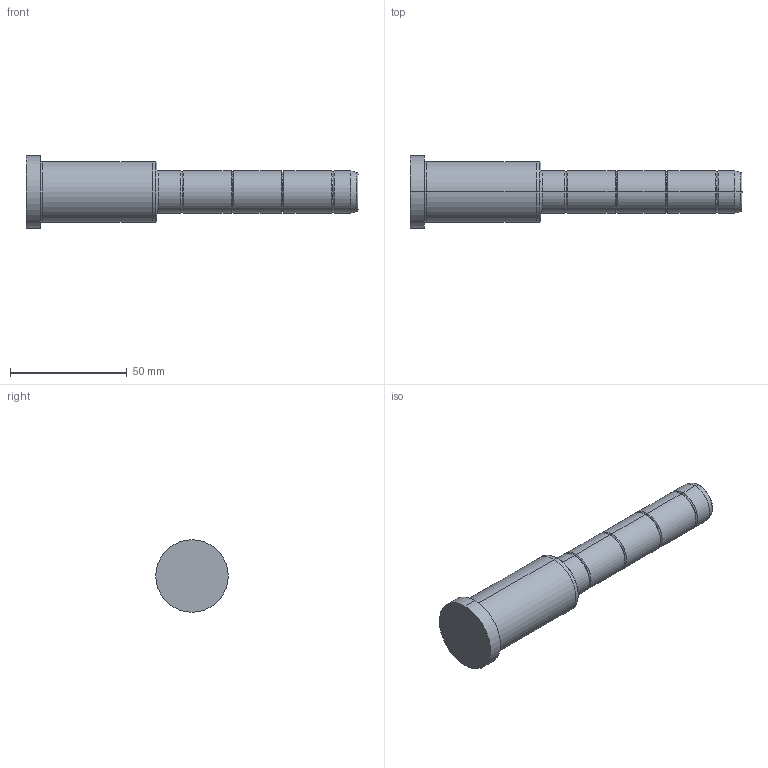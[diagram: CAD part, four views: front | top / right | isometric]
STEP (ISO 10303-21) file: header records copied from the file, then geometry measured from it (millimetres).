
FILE_DESCRIPTION( ( 'STEP AP203' ), '1' );
FILE_NAME( 'C:/Projects/D02 - 18x56x86.step', '2003-01-04T13:33:36', ( ' ' ), ( ' ' ), 'XStep 1.0', ' ', ' ' );
FILE_SCHEMA( ( 'CONFIG_CONTROL_DESIGN' ) );
Length unit declared in the file: metre
Products named in the file (1): 1
Bounding box: 142 x 31 x 31 mm (x, y, z)
Volume: 52832.2 mm3; surface area: 11068.8 mm2
Topology: 1 solids, 1 shells, 48 faces, 94 edges, 52 vertices
Faces by surface type: bspline 26, revolution 22
Entity records: 1523 total; most frequent: CARTESIAN_POINT 617, ORIENTED_EDGE 188, DIRECTION 150, EDGE_CURVE 94, AXIS2_PLACEMENT_3D 53, EDGE_LOOP 52, VERTEX_POINT 52, CIRCLE 52
